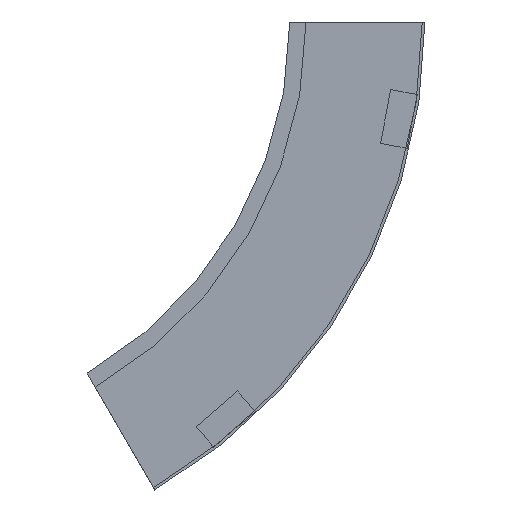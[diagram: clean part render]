
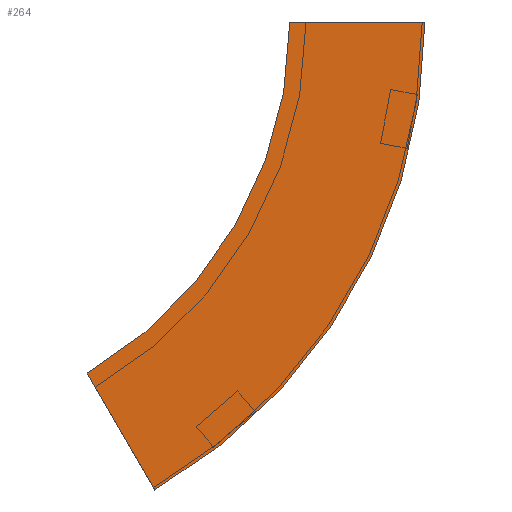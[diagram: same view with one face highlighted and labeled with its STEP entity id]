
A CAD part, left-side view. The second image highlights one B-rep face of the part: STEP entity #264.
In plain terms, the highlighted planar face has unit normal (-1, 0, 0) as drawn and (1, 0, 0) by its records, which use the part's own axes.
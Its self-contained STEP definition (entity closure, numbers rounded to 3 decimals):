
#5 = CARTESIAN_POINT ( 'NONE',  ( 0., 300., 0. ) ) ;
#18 = ORIENTED_EDGE ( 'NONE', *, *, #183, .T. ) ;
#22 = LINE ( 'NONE', #234, #395 ) ;
#49 = VERTEX_POINT ( 'NONE', #238 ) ;
#52 = LINE ( 'NONE', #311, #135 ) ;
#108 = CIRCLE ( 'NONE', #405, 400. ) ;
#135 = VECTOR ( 'NONE', #162, 1000. ) ;
#143 = EDGE_CURVE ( 'NONE', #49, #425, #22, .T. ) ;
#153 = AXIS2_PLACEMENT_3D ( 'NONE', #222, #453, #255 ) ;
#162 = DIRECTION ( 'NONE',  ( 0., 0.5, 0.866 ) ) ;
#176 = CARTESIAN_POINT ( 'NONE',  ( 0., 300., 0. ) ) ;
#183 = EDGE_CURVE ( 'NONE', #503, #421, #52, .T. ) ;
#188 = ORIENTED_EDGE ( 'NONE', *, *, #433, .F. ) ;
#209 = EDGE_LOOP ( 'NONE', ( #188, #347, #256, #18 ) ) ;
#222 = CARTESIAN_POINT ( 'NONE',  ( 0., -100., 0. ) ) ;
#234 = CARTESIAN_POINT ( 'NONE',  ( 0., -100., 0. ) ) ;
#238 = CARTESIAN_POINT ( 'NONE',  ( 0., -100., 0. ) ) ;
#255 = DIRECTION ( 'NONE',  ( 0., 0., 1. ) ) ;
#256 = ORIENTED_EDGE ( 'NONE', *, *, #374, .T. ) ;
#259 = CARTESIAN_POINT ( 'NONE',  ( 0., 150., -259.808 ) ) ;
#264 = ADVANCED_FACE ( 'NONE', ( #269 ), #485, .F. ) ;
#269 = FACE_OUTER_BOUND ( 'NONE', #209, .T. ) ;
#311 = CARTESIAN_POINT ( 'NONE',  ( 0., 100., -346.41 ) ) ;
#318 = DIRECTION ( 'NONE',  ( 1., 0., 0. ) ) ;
#347 = ORIENTED_EDGE ( 'NONE', *, *, #143, .F. ) ;
#356 = CARTESIAN_POINT ( 'NONE',  ( 0., 0., 0. ) ) ;
#374 = EDGE_CURVE ( 'NONE', #49, #503, #108, .T. ) ;
#395 = VECTOR ( 'NONE', #558, 1000. ) ;
#405 = AXIS2_PLACEMENT_3D ( 'NONE', #5, #318, #536 ) ;
#421 = VERTEX_POINT ( 'NONE', #259 ) ;
#425 = VERTEX_POINT ( 'NONE', #356 ) ;
#430 = CIRCLE ( 'NONE', #570, 300. ) ;
#433 = EDGE_CURVE ( 'NONE', #425, #421, #430, .T. ) ;
#448 = DIRECTION ( 'NONE',  ( 1., 0., 0. ) ) ;
#453 = DIRECTION ( 'NONE',  ( -1., 0., 0. ) ) ;
#485 = PLANE ( 'NONE',  #153 ) ;
#503 = VERTEX_POINT ( 'NONE', #561 ) ;
#536 = DIRECTION ( 'NONE',  ( 0., -1., 0. ) ) ;
#539 = DIRECTION ( 'NONE',  ( 0., -1., 0. ) ) ;
#558 = DIRECTION ( 'NONE',  ( 0., 1., 0. ) ) ;
#561 = CARTESIAN_POINT ( 'NONE',  ( 0., 100., -346.41 ) ) ;
#570 = AXIS2_PLACEMENT_3D ( 'NONE', #176, #448, #539 ) ;
